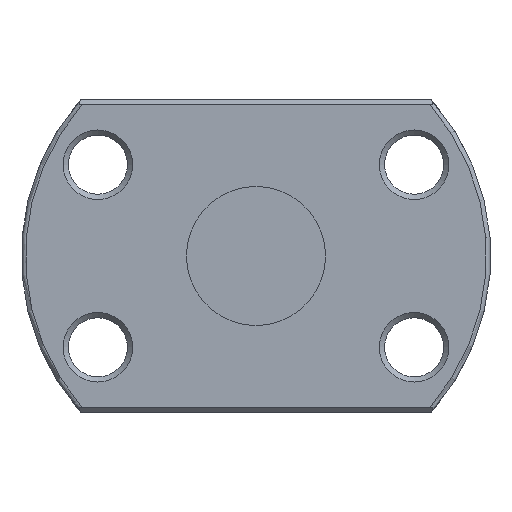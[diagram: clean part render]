
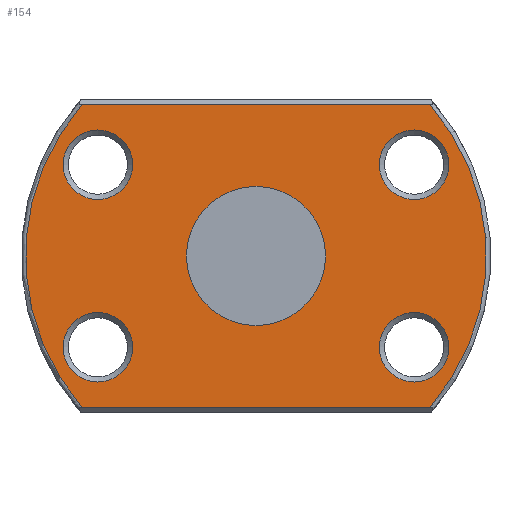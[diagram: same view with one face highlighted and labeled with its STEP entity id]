
A CAD part, left-side view. The second image highlights one B-rep face of the part: STEP entity #154.
In plain terms, the highlighted planar face has unit normal (-1, 0, 0).
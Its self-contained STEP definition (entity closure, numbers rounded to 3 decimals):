
#88=LINE('',#746,#100);
#89=LINE('',#751,#101);
#100=VECTOR('',#596,1.);
#101=VECTOR('',#599,1.);
#112=FACE_BOUND('',#212,.T.);
#113=FACE_BOUND('',#213,.T.);
#114=FACE_BOUND('',#214,.T.);
#115=FACE_BOUND('',#215,.T.);
#116=FACE_BOUND('',#216,.T.);
#154=ADVANCED_FACE('',(#112,#113,#114,#115,#116),#186,.F.);
#186=PLANE('',#521);
#212=EDGE_LOOP('',(#268));
#213=EDGE_LOOP('',(#269));
#214=EDGE_LOOP('',(#270));
#215=EDGE_LOOP('',(#271));
#216=EDGE_LOOP('',(#272,#273,#274,#275));
#268=ORIENTED_EDGE('',*,*,#427,.T.);
#269=ORIENTED_EDGE('',*,*,#428,.T.);
#270=ORIENTED_EDGE('',*,*,#429,.T.);
#271=ORIENTED_EDGE('',*,*,#430,.T.);
#272=ORIENTED_EDGE('',*,*,#431,.T.);
#273=ORIENTED_EDGE('',*,*,#432,.T.);
#274=ORIENTED_EDGE('',*,*,#433,.T.);
#275=ORIENTED_EDGE('',*,*,#434,.T.);
#382=VERTEX_POINT('',#739);
#383=VERTEX_POINT('',#741);
#384=VERTEX_POINT('',#743);
#385=VERTEX_POINT('',#745);
#386=VERTEX_POINT('',#747);
#387=VERTEX_POINT('',#748);
#388=VERTEX_POINT('',#750);
#389=VERTEX_POINT('',#752);
#427=EDGE_CURVE('',#382,#382,#484,.T.);
#428=EDGE_CURVE('',#383,#383,#485,.T.);
#429=EDGE_CURVE('',#384,#384,#486,.T.);
#430=EDGE_CURVE('',#385,#385,#487,.T.);
#431=EDGE_CURVE('',#386,#387,#88,.T.);
#432=EDGE_CURVE('',#387,#388,#488,.T.);
#433=EDGE_CURVE('',#388,#389,#89,.T.);
#434=EDGE_CURVE('',#389,#386,#489,.T.);
#484=CIRCLE('',#515,2.);
#485=CIRCLE('',#516,2.);
#486=CIRCLE('',#517,2.);
#487=CIRCLE('',#518,2.);
#488=CIRCLE('',#519,13.25);
#489=CIRCLE('',#520,13.25);
#515=AXIS2_PLACEMENT_3D('',#738,#588,#589);
#516=AXIS2_PLACEMENT_3D('',#740,#590,#591);
#517=AXIS2_PLACEMENT_3D('',#742,#592,#593);
#518=AXIS2_PLACEMENT_3D('',#744,#594,#595);
#519=AXIS2_PLACEMENT_3D('',#749,#597,#598);
#520=AXIS2_PLACEMENT_3D('',#753,#600,#601);
#521=AXIS2_PLACEMENT_3D('',#754,#602,#603);
#588=DIRECTION('',(1.,0.,0.));
#589=DIRECTION('',(0.,0.,-1.));
#590=DIRECTION('',(1.,0.,0.));
#591=DIRECTION('',(0.,0.,-1.));
#592=DIRECTION('',(1.,0.,0.));
#593=DIRECTION('',(0.,0.,-1.));
#594=DIRECTION('',(1.,0.,0.));
#595=DIRECTION('',(0.,0.,-1.));
#596=DIRECTION('',(0.,1.,0.));
#597=DIRECTION('',(-1.,0.,0.));
#598=DIRECTION('',(0.,0.,-1.));
#599=DIRECTION('',(0.,-1.,0.));
#600=DIRECTION('',(-1.,0.,0.));
#601=DIRECTION('',(0.,0.,-1.));
#602=DIRECTION('',(1.,0.,0.));
#603=DIRECTION('',(0.,0.,-1.));
#738=CARTESIAN_POINT('',(-17.,9.093,-5.25));
#739=CARTESIAN_POINT('',(-17.,9.093,-7.25));
#740=CARTESIAN_POINT('',(-17.,9.093,5.25));
#741=CARTESIAN_POINT('',(-17.,9.093,3.25));
#742=CARTESIAN_POINT('',(-17.,-9.093,-5.25));
#743=CARTESIAN_POINT('',(-17.,-9.093,-7.25));
#744=CARTESIAN_POINT('',(-17.,-9.093,5.25));
#745=CARTESIAN_POINT('',(-17.,-9.093,3.25));
#746=CARTESIAN_POINT('',(-17.,10.062,8.7));
#747=CARTESIAN_POINT('',(-17.,-9.994,8.7));
#748=CARTESIAN_POINT('',(-17.,9.994,8.7));
#749=CARTESIAN_POINT('',(-17.,0.,0.));
#750=CARTESIAN_POINT('',(-17.,9.994,-8.7));
#751=CARTESIAN_POINT('',(-17.,0.,-8.7));
#752=CARTESIAN_POINT('',(-17.,-9.994,-8.7));
#753=CARTESIAN_POINT('',(-17.,0.,0.));
#754=CARTESIAN_POINT('',(-17.,0.,13.5));
